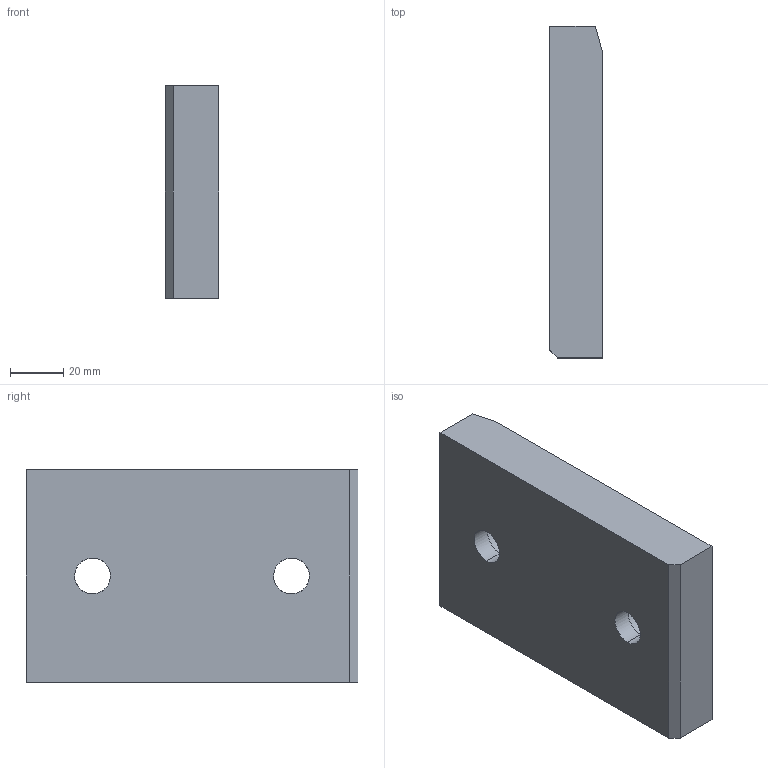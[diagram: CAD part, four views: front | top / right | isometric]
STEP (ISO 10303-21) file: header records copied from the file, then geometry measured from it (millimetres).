
FILE_DESCRIPTION(('CATIA V5 STEP Exchange'),'2;1');
FILE_NAME('C:\Users\borellobunino\Desktop\3D X SITO CF\A915\GSB_OILLESS_G22501080125\STEP-2.03\A915-80X125.stp','2019-07-14T12:54:05+00:00',('none'),('none'),'CATIA Version 5 Release 20 GA (IN-10)','CATIA V5 STEP AP203','none');
FILE_SCHEMA(('CONFIG_CONTROL_DESIGN'));
Length unit declared in the file: millimetre
Products named in the file (1): A915-80X125
Bounding box: 20 x 125 x 80 mm (x, y, z)
Volume: 188135.6 mm3; surface area: 29337.9 mm2
Topology: 1 solids, 1 shells, 23 faces, 73 edges, 54 vertices
Faces by surface type: plane 10, cylinder 9, torus 4
Entity records: 1057 total; most frequent: CARTESIAN_POINT 375, ORIENTED_EDGE 146, DIRECTION 103, EDGE_CURVE 73, AXIS2_PLACEMENT_3D 54, VERTEX_POINT 54, CIRCLE 30, EDGE_LOOP 29
